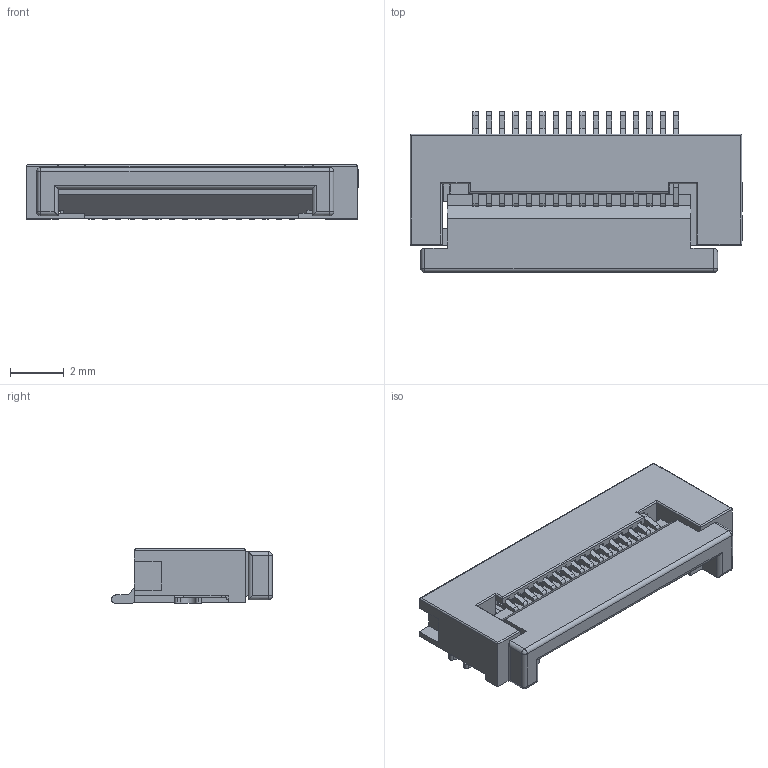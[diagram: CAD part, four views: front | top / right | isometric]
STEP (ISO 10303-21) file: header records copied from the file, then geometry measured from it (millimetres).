
FILE_DESCRIPTION (( 'STEP AP214' ), '1' );
FILE_NAME ('FPC-SMD_16P-P0.50_HCTL_XW05202-160R-00.STEP', '2022-09-05T08:46:24', ( 'PC' ), ( 'Microsoft' ), 'SwSTEP 2.0', 'SolidWorks 2020', '' );
FILE_SCHEMA (( 'AUTOMOTIVE_DESIGN' ));
Length unit declared in the file: millimetre
Products named in the file (1): FPC-SMD_16P-P0.50_HCTL_XW05202-160R-00
Bounding box: 12.41 x 6 x 2.02 mm (x, y, z)
Volume: 88.1 mm3; surface area: 474.2 mm2
Topology: 20 solids, 20 shells, 892 faces, 2530 edges, 1660 vertices
Faces by surface type: plane 652, cylinder 138, bspline 98, sphere 4
Entity records: 38953 total; most frequent: CARTESIAN_POINT 6445, ORIENTED_EDGE 5052, DIRECTION 4134, EDGE_CURVE 2526, VECTOR 2068, LINE 2068, VERTEX_POINT 1660, AXIS2_PLACEMENT_3D 1033
